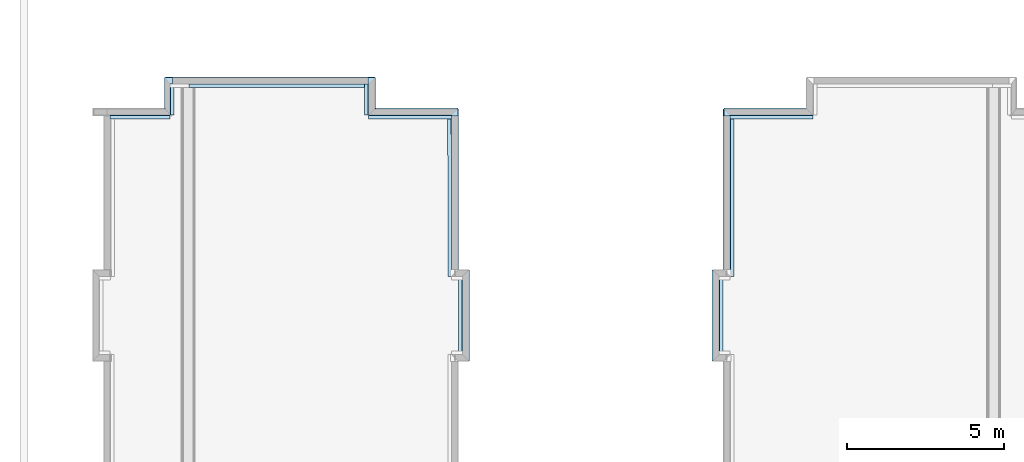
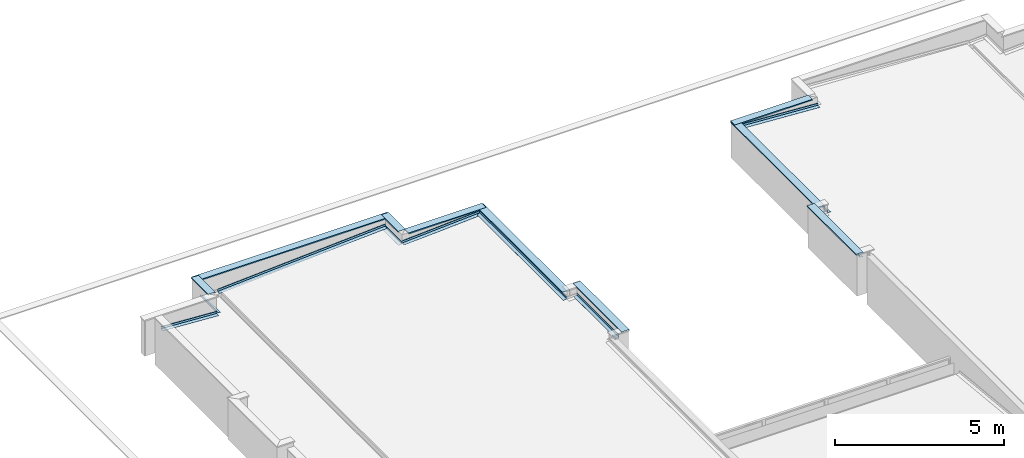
# One storey, part 13 of 25: 19 roofs.
"""IFC4 building model written with IfcOpenShell, lengths in metres."""

from ifc_helpers import new_model, entity, si_unit, converted_unit, derived_unit, direction, frame, origin_with_axes, place, context, subcontext, project, spatial, line, indexed_curve, outline, extrude, clip, halfspace, material, material_profile, profile_set, type_object, element, save


model = new_model("IFC4")

# Units and contexts
model_context = context("Model", 3, precision=1e-05, world=origin_with_axes(), true_north=direction((0.0, 1.0)))
body_context = subcontext(model_context, "Body", "Model", "MODEL_VIEW")
ifc_project = project(units=[si_unit("LENGTHUNIT", "METRE"), si_unit("AREAUNIT", "SQUARE_METRE"), si_unit("VOLUMEUNIT", "CUBIC_METRE"), converted_unit("PLANEANGLEUNIT", "DEGREE", entity("IfcPlaneAngleMeasure", 0.0174532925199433), si_unit("PLANEANGLEUNIT", "RADIAN"), dimensions=[0, 0, 0, 0, 0, 0, 0]), converted_unit("TIMEUNIT", "Year", entity("IfcTimeMeasure", 31557600.0), si_unit("TIMEUNIT", "SECOND"), dimensions=[0, 0, 1, 0, 0, 0, 0]), si_unit("MASSUNIT", "GRAM", prefix="KILO"), si_unit("THERMODYNAMICTEMPERATUREUNIT", "DEGREE_CELSIUS"), si_unit("LUMINOUSINTENSITYUNIT", "LUMEN"), si_unit("ENERGYUNIT", "JOULE", prefix="MEGA"), derived_unit("THERMALCONDUCTANCEUNIT", [(si_unit("POWERUNIT", "WATT"), 1), (si_unit("LENGTHUNIT", "METRE"), -1), (si_unit("THERMODYNAMICTEMPERATUREUNIT", "KELVIN"), -1)]), derived_unit("SPECIFICHEATCAPACITYUNIT", [(si_unit("ENERGYUNIT", "JOULE"), 1), (si_unit("MASSUNIT", "GRAM", prefix="KILO"), -1), (si_unit("THERMODYNAMICTEMPERATUREUNIT", "KELVIN"), -1)]), derived_unit("MASSDENSITYUNIT", [(si_unit("MASSUNIT", "GRAM", prefix="KILO"), 1), (si_unit("VOLUMEUNIT", "CUBIC_METRE"), -1)])], contexts=[model_context])

# Site, building, storey
site_placement = place(None, origin_with_axes())
site = spatial("IfcSite", under=ifc_project, at=site_placement, Name="PADRÃO", CompositionType="ELEMENT")
building_placement = place(site_placement, origin_with_axes())
building = spatial("IfcBuilding", under=site, at=building_placement, Name="CRECHE PRÉ-ESCOLA TIPO 2", CompositionType="ELEMENT")
storey_placement = place(building_placement, frame((0.0, 0.0, 3.26), z_axis=(0.0, 0.0, 1.0), x_axis=(1.0, 0.0, 0.0)))
storey = spatial("IfcBuildingStorey", under=building, at=storey_placement, Name="COBERTURA", CompositionType="ELEMENT", Elevation=3.26)

# Roofs
ifc_material_1 = material(Name="RUFO EM CHAPA DE AÇO GALVANIZADO")
ifc_material_profile_1 = material_profile(ifc_material_1, outline(indexed_curve([(-0.123242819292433, 0.0), (-0.123136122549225, -0.000994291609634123), (-0.01, 0.0111462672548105), (-0.01, 0.0811462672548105), (0.000794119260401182, 0.0919771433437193), (8.58116060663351e-05, 0.0926830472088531), (-0.011, 0.0815594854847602), (-0.011, 0.0120446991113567), (-0.123136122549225, 1.14495535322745e-05)], segments=[line(1, 2, 3, 4, 5, 6, 7, 8, 9, 1)])), Name="RUFO EM CHAPA DE AÇO GALVANIZADO")
ifc_profile_set_1 = profile_set([ifc_material_profile_1], Name="FNDE-Rufo")
roof_type_1 = type_object("IfcRoofType", Name="FNDE-Rufo 124 x 94", PredefinedType="NOTDEFINED")
roof_1_placement = place(storey_placement, frame((-14.6900427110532, 39.7500903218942, 1.01432991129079), z_axis=(0.0, 0.0, 1.0), x_axis=(1.39327901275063e-10, 1.0, 0.0)))
element("IfcRoof", 1, at=roof_1_placement, inside=storey, type_object=roof_type_1, material=ifc_profile_set_1, Name="V01", PredefinedType="NOTDEFINED", context=body_context, shape_type="Clipping", body=[
    clip(clip(extrude(outline(indexed_curve([(-0.123242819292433, 0.0), (-0.123136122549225, -0.000994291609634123), (-0.01, 0.0111462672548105), (-0.01, 0.0811462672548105), (0.000794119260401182, 0.0919771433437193), (8.58116060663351e-05, 0.0926830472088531), (-0.011, 0.0815594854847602), (-0.011, 0.0120446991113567), (-0.123136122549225, 1.14495535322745e-05)], segments=[line(1, 2, 3, 4, 5, 6, 7, 8, 9, 1)])), frame((0.0, 2.6605327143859, 0.163886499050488), z_axis=(0.0, -0.998108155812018, -0.0614825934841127), x_axis=(1.0, 0.0, 0.0)), (0.0, 0.0, 1.0), 2.67638096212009), halfspace(frame((0.0, 0.0, 0.0), z_axis=(0.0, 1.0, 0.0), x_axis=(0.0, 0.0, 1.0)), True)), halfspace(frame((0.0, 2.64974776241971, 0.0), z_axis=(0.0, -1.0, 0.0), x_axis=(0.0, 0.0, -1.0)), True)),
])
roof_2_placement = place(storey_placement, frame((-34.6248122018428, 40.7500006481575, 0.66259587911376), z_axis=(0.0, 0.0, 1.0), x_axis=(-1.23378948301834e-06, -0.999999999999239, 0.0)))
element("IfcRoof", 2, at=roof_2_placement, inside=storey, type_object=roof_type_1, material=ifc_profile_set_1, Name="V01", PredefinedType="NOTDEFINED", context=body_context, shape_type="Clipping", body=[
    clip(clip(extrude(outline(indexed_curve([(-0.123242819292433, 0.0), (-0.123136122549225, -0.000994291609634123), (-0.01, 0.0111462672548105), (-0.01, 0.0811462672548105), (0.000794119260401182, 0.0919771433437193), (8.58116060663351e-05, 0.0926830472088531), (-0.011, 0.0815594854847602), (-0.011, 0.0120446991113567), (-0.123136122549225, 1.14495535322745e-05)], segments=[line(1, 2, 3, 4, 5, 6, 7, 8, 9, 1)])), frame((0.0, 5.74533244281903, 0.353912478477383), z_axis=(0.0, 0.998108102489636, 0.0614834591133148), x_axis=(-1.0, 0.0, 0.0)), (0.0, 0.0, -1.0), 5.76702817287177), halfspace(frame((0.0, 0.0, 0.0), z_axis=(0.0, 1.0, 0.0), x_axis=(0.0, 0.0, 1.0)), True)), halfspace(frame((0.0, 5.73454733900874, 0.0), z_axis=(0.0, -1.0, 0.0), x_axis=(0.0, 0.0, -1.0)), True)),
])
roof_3_placement = place(storey_placement, frame((-28.8902637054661, 40.7499935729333, 0.966231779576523), z_axis=(0.0, 0.0, 1.0), x_axis=(-1.0, 0.0, 0.0)))
element("IfcRoof", 3, at=roof_3_placement, inside=storey, type_object=roof_type_1, material=ifc_profile_set_1, Name="V01", PredefinedType="NOTDEFINED", context=body_context, shape_type="SweptSolid", body=[
    extrude(outline(indexed_curve([(-0.123242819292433, 0.0), (-0.123136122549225, -0.000994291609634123), (-0.01, 0.0111462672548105), (-0.01, 0.0811462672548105), (0.000794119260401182, 0.0919771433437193), (8.58116060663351e-05, 0.0926830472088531), (-0.011, 0.0815594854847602), (-0.011, 0.0120446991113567), (-0.123136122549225, 1.14495535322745e-05)], segments=[line(1, 2, 3, 4, 5, 6, 7, 8, 9, 1)])), frame((0.0, 1.00005816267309, 0.0), z_axis=(0.0, 1.0, 0.0), x_axis=(-1.0, 0.0, 0.0)), (0.0, 0.0, -1.0), 1.00005816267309),
])
roof_4_placement = place(storey_placement, frame((-28.8902637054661, 39.7499354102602, 1.01314679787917), z_axis=(0.0, 0.0, 1.0), x_axis=(1.39327632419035e-10, -1.0, 0.0)))
element("IfcRoof", 4, at=roof_4_placement, inside=storey, type_object=roof_type_1, material=ifc_profile_set_1, Name="V01", PredefinedType="NOTDEFINED", context=body_context, shape_type="Clipping", body=[
    clip(clip(extrude(outline(indexed_curve([(-0.123242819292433, 0.0), (-0.123136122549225, -0.000994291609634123), (-0.01, 0.0111462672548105), (-0.01, 0.0811462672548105), (0.000794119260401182, 0.0919771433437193), (8.58116060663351e-05, 0.0926830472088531), (-0.011, 0.0815594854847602), (-0.011, 0.0120446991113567), (-0.123136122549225, 1.14495535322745e-05)], segments=[line(1, 2, 3, 4, 5, 6, 7, 8, 9, 1)])), frame((0.0, 2.66325498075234, 0.164271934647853), z_axis=(0.0, 0.998103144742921, 0.0615638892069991), x_axis=(-1.0, 0.0, 0.0)), (0.0, 0.0, -1.0), 2.67913612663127), halfspace(frame((0.0, 0.0, 0.0), z_axis=(0.0, 1.0, 0.0), x_axis=(0.0, 0.0, 1.0)), True)), halfspace(frame((0.0, 2.65245576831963, 0.0), z_axis=(0.0, -1.0, 0.0), x_axis=(0.0, 0.0, -1.0)), True)),
])
roof_5_placement = place(storey_placement, frame((-37.143318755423, 39.7500031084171, 0.800568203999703), z_axis=(0.0, 0.0, 1.0), x_axis=(0.0, -1.0, 0.0)))
element("IfcRoof", 5, at=roof_5_placement, inside=storey, type_object=roof_type_1, material=ifc_profile_set_1, Name="V01", PredefinedType="NOTDEFINED", context=body_context, shape_type="Clipping", body=[
    clip(clip(extrude(outline(indexed_curve([(-0.123242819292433, 0.0), (-0.123136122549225, -0.000994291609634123), (-0.01, 0.0111462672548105), (-0.01, 0.0811462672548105), (0.000794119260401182, 0.0919771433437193), (8.58116060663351e-05, 0.0926830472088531), (-0.011, 0.0815594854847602), (-0.011, 0.0120446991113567), (-0.123136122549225, 1.14495535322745e-05)], segments=[line(1, 2, 3, 4, 5, 6, 7, 8, 9, 1)])), frame((0.0, 1.92753274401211, -0.115651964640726), z_axis=(0.0, 0.998204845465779, -0.0598922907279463), x_axis=(-1.0, 0.0, 0.0)), (0.0, 0.0, -1.0), 1.94152406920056), halfspace(frame((0.0, 0.0, 0.0), z_axis=(0.0, 1.0, 0.0), x_axis=(0.0, 0.0, 1.0)), True)), halfspace(frame((0.0, 1.91702675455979, 0.0), z_axis=(0.0, -1.0, 0.0), x_axis=(0.0, 0.0, -1.0)), True)),
])
roof_6_placement = place(storey_placement, frame((-35.2262920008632, 40.7500027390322, 0.687994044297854), z_axis=(0.0, 0.0, 1.0), x_axis=(-1.0, 0.0, 0.0)))
element("IfcRoof", 6, at=roof_6_placement, inside=storey, type_object=roof_type_1, material=ifc_profile_set_1, Name="V01", PredefinedType="NOTDEFINED", context=body_context, shape_type="SweptSolid", body=[
    extrude(outline(indexed_curve([(-0.123242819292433, 0.0), (-0.123136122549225, -0.000994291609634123), (-0.01, 0.0111462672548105), (-0.01, 0.0811462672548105), (0.000794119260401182, 0.0919771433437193), (8.58116060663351e-05, 0.0926830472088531), (-0.011, 0.0815594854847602), (-0.011, 0.0120446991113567), (-0.123136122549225, 1.14495535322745e-05)], segments=[line(1, 2, 3, 4, 5, 6, 7, 8, 9, 1)])), frame((0.0, 0.99999963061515, 0.0), z_axis=(0.0, -1.0, 0.0), x_axis=(1.0, 0.0, 0.0)), (0.0, 0.0, 1.0), 0.99999963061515),
])
roof_7_placement = place(storey_placement, frame((-25.8877493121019, 32.1001889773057, 1.19564920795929), z_axis=(0.0, 0.0, 1.0), x_axis=(1.0, 0.0, 0.0)))
element("IfcRoof", 7, at=roof_7_placement, inside=storey, type_object=roof_type_1, material=ifc_profile_set_1, Name="V13", PredefinedType="NOTDEFINED", context=body_context, shape_type="SweptSolid", body=[
    extrude(outline(indexed_curve([(-0.123242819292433, 0.0), (-0.123136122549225, -0.000994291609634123), (-0.01, 0.0111462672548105), (-0.01, 0.0811462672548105), (0.000794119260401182, 0.0919771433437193), (8.58116060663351e-05, 0.0926830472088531), (-0.011, 0.0815594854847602), (-0.011, 0.0120446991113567), (-0.123136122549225, 1.14495535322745e-05)], segments=[line(1, 2, 3, 4, 5, 6, 7, 8, 9, 1)])), frame((0.0, 2.50172949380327, 0.0), z_axis=(0.0, -1.0, 0.0), x_axis=(1.0, 0.0, 0.0)), (0.0, 0.0, 1.0), 2.50172949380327),
])
roof_8_placement = place(storey_placement, frame((-17.3397904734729, 39.7500903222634, 1.17755602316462), z_axis=(0.0, 0.0, 1.0), x_axis=(-0.999999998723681, 5.05236402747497e-05, 0.0)))
element("IfcRoof", 8, at=roof_8_placement, inside=storey, type_object=roof_type_1, material=ifc_profile_set_1, Name="V03", PredefinedType="NOTDEFINED", context=body_context, shape_type="Clipping", body=[
    clip(clip(extrude(outline(indexed_curve([(-0.123242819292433, 0.0), (-0.123136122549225, -0.000994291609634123), (-0.01, 0.0111462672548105), (-0.01, 0.0811462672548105), (0.000794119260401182, 0.0919771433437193), (8.58116060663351e-05, 0.0926830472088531), (-0.011, 0.0815594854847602), (-0.011, 0.0120446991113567), (-0.123136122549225, 1.14495535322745e-05)], segments=[line(1, 2, 3, 4, 5, 6, 7, 8, 9, 1)])), frame((0.0, 5.15006674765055, -0.0042218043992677), z_axis=(0.0, -0.99999966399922, 0.000819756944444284), x_axis=(1.0, 0.0, 0.0)), (0.0, 0.0, 1.0), 5.15021227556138), halfspace(frame((0.0, 0.0, 0.0), z_axis=(0.0, 1.0, 0.0), x_axis=(0.0, 0.0, 1.0)), True)), halfspace(frame((0.0, 5.14992295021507, 0.0), z_axis=(0.0, -1.0, 0.0), x_axis=(0.0, 0.0, -1.0)), True)),
])
roof_9_placement = place(storey_placement, frame((-17.6900125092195, 34.6001673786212, 1.19432809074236), z_axis=(0.0, 0.0, 1.0), x_axis=(-1.0, 0.0, 0.0)))
element("IfcRoof", 9, at=roof_9_placement, inside=storey, type_object=roof_type_1, material=ifc_profile_set_1, Name="V05", PredefinedType="NOTDEFINED", context=body_context, shape_type="SweptSolid", body=[
    extrude(outline(indexed_curve([(-0.123242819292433, 0.0), (-0.123136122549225, -0.000994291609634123), (-0.01, 0.0111462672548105), (-0.01, 0.0811462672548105), (0.000794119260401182, 0.0919771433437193), (8.58116060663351e-05, 0.0926830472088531), (-0.011, 0.0815594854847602), (-0.011, 0.0120446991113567), (-0.123136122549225, 1.14495535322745e-05)], segments=[line(1, 2, 3, 4, 5, 6, 7, 8, 9, 1)])), frame((0.0, 2.49997905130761, 0.0), z_axis=(0.0, -1.0, 0.0), x_axis=(1.0, 0.0, 0.0)), (0.0, 0.0, 1.0), 2.49997905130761),
])
roof_10_placement = place(storey_placement, frame((-26.2344790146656, 34.6001890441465, 1.17484542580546), z_axis=(0.0, 0.0, 1.0), x_axis=(0.999999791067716, 0.000646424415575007, 0.0)))
element("IfcRoof", 10, at=roof_10_placement, inside=storey, type_object=roof_type_1, material=ifc_profile_set_1, Name="V15", PredefinedType="NOTDEFINED", context=body_context, shape_type="Clipping", body=[
    clip(clip(extrude(outline(indexed_curve([(-0.123242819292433, 0.0), (-0.123136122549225, -0.000994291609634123), (-0.01, 0.0111462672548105), (-0.01, 0.0811462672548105), (0.000794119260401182, 0.0919771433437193), (8.58116060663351e-05, 0.0926830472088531), (-0.011, 0.0815594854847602), (-0.011, 0.0120446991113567), (-0.123136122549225, 1.14495535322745e-05)], segments=[line(1, 2, 3, 4, 5, 6, 7, 8, 9, 1)])), frame((0.0, 5.14981240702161, 0.00190722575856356), z_axis=(0.0, -0.999999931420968, -0.000370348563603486), x_axis=(1.0, 0.0, 0.0)), (0.0, 0.0, 1.0), 5.14987772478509), halfspace(frame((0.0, 0.0, 0.0), z_axis=(0.0, 1.0, 0.0), x_axis=(0.0, 0.0, 1.0)), True)), halfspace(frame((0.0, 5.14974744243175, 0.0), z_axis=(0.0, -1.0, 0.0), x_axis=(0.0, 0.0, -1.0)), True)),
])
ifc_material_2 = material(Name="PINGADEIRA EM CHAPA DE AÇO GALVANIZADO")
ifc_material_profile_2 = material_profile(ifc_material_2, outline(indexed_curve([(0.00496259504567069, -0.0184313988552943), (0.0250000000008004, -0.03), (0.0250000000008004, 0.01), (-0.225020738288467, 0.01), (-0.22503740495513, -0.03), (-0.205, -0.0184313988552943), (-0.2055, -0.0175653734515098), (-0.224036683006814, -0.0282675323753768), (-0.224021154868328, 0.009), (0.0240000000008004, 0.009), (0.0240000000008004, -0.0282679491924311), (0.00546259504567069, -0.0175653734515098)], segments=[line(1, 2, 3, 4, 5, 6, 7, 8, 9, 10, 11, 12, 1)])), Name="PINGADEIRA EM CHAPA DE AÇO GALVANIZADO")
ifc_profile_set_2 = profile_set([ifc_material_profile_2], Name="FNDE-Pingadeira em chapa de aço galvanizado")
roof_type_2 = type_object("IfcRoofType", Name="FNDE-Pingadeira em chapa de aço galvanizado 250 x 40", PredefinedType="NOTDEFINED")
roof_11_placement = place(storey_placement, frame((-14.8905644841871, 39.950090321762, 1.31), z_axis=(0.0, 0.0, 1.0), x_axis=(4.04236717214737e-09, 1.0, 0.0)))
element("IfcRoof", 11, at=roof_11_placement, inside=storey, type_object=roof_type_2, material=ifc_profile_set_2, Name="V01", PredefinedType="NOTDEFINED", context=body_context, shape_type="SweptSolid", body=[
    extrude(outline(indexed_curve([(0.00496259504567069, -0.0184313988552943), (0.0250000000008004, -0.03), (0.0250000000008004, 0.01), (-0.225020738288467, 0.01), (-0.22503740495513, -0.03), (-0.205, -0.0184313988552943), (-0.2055, -0.0175653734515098), (-0.224036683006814, -0.0282675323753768), (-0.224021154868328, 0.009), (0.0240000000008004, 0.009), (0.0240000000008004, -0.0282679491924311), (0.00546259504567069, -0.0175653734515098)], segments=[line(1, 2, 3, 4, 5, 6, 7, 8, 9, 10, 11, 12, 1)])), frame((0.0, 2.64948604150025, 0.0), z_axis=(0.0, -1.0, 0.0), x_axis=(1.0, 0.0, 0.0)), (0.0, 0.0, 1.0), 2.64948604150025),
])
roof_12_placement = place(storey_placement, frame((-26.0400963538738, 39.9468322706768, 1.31), z_axis=(0.0, 0.0, 1.0), x_axis=(-0.000362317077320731, 0.999999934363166, 0.0)))
element("IfcRoof", 12, at=roof_12_placement, inside=storey, type_object=roof_type_2, material=ifc_profile_set_2, Name="V01", PredefinedType="NOTDEFINED", context=body_context, shape_type="SweptSolid", body=[
    extrude(outline(indexed_curve([(0.00496259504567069, -0.0184313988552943), (0.0250000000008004, -0.03), (0.0250000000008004, 0.01), (-0.225020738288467, 0.01), (-0.22503740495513, -0.03), (-0.205, -0.0184313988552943), (-0.2055, -0.0175653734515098), (-0.224036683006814, -0.0282675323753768), (-0.224021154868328, 0.009), (0.0240000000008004, 0.009), (0.0240000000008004, -0.0282679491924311), (0.00546259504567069, -0.0175653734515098)], segments=[line(1, 2, 3, 4, 5, 6, 7, 8, 9, 10, 11, 12, 1)])), frame((0.0, 2.64997360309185, 0.0), z_axis=(0.0, -1.0, 0.0), x_axis=(1.0, 0.0, 0.0)), (0.0, 0.0, 1.0), 2.64997360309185),
])
roof_13_placement = place(storey_placement, frame((-28.6900697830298, 39.9458721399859, 1.31), z_axis=(0.0, 0.0, 1.0), x_axis=(0.99999995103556, 0.00031293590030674, 0.0)))
element("IfcRoof", 13, at=roof_13_placement, inside=storey, type_object=roof_type_2, material=ifc_profile_set_2, Name="V01", PredefinedType="NOTDEFINED", context=body_context, shape_type="SweptSolid", body=[
    extrude(outline(indexed_curve([(0.00496259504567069, -0.0184313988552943), (0.0250000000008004, -0.03), (0.0250000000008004, 0.01), (-0.225020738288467, 0.01), (-0.22503740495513, -0.03), (-0.205, -0.0184313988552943), (-0.2055, -0.0175653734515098), (-0.224036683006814, -0.0282675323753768), (-0.224021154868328, 0.009), (0.0240000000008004, 0.009), (0.0240000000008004, -0.0282679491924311), (0.00546259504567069, -0.0175653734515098)], segments=[line(1, 2, 3, 4, 5, 6, 7, 8, 9, 10, 11, 12, 1)])), frame((0.0, 1.00412881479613, 0.0), z_axis=(0.0, -1.0, 0.0), x_axis=(1.0, 0.0, 0.0)), (0.0, 0.0, 1.0), 1.00412881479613),
])
roof_14_placement = place(storey_placement, frame((-35.3800961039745, 40.9479074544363, 1.31), z_axis=(0.0, 0.0, 1.0), x_axis=(-1.0, 0.0, 0.0)))
element("IfcRoof", 14, at=roof_14_placement, inside=storey, type_object=roof_type_2, material=ifc_profile_set_2, Name="V01", PredefinedType="NOTDEFINED", context=body_context, shape_type="SweptSolid", body=[
    extrude(outline(indexed_curve([(0.00496259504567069, -0.0184313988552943), (0.0250000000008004, -0.03), (0.0250000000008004, 0.01), (-0.225020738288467, 0.01), (-0.22503740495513, -0.03), (-0.205, -0.0184313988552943), (-0.2055, -0.0175653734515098), (-0.224036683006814, -0.0282675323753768), (-0.224021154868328, 0.009), (0.0240000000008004, 0.009), (0.0240000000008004, -0.0282679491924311), (0.00546259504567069, -0.0175653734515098)], segments=[line(1, 2, 3, 4, 5, 6, 7, 8, 9, 10, 11, 12, 1)])), frame((0.0, 0.997905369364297, 0.0), z_axis=(0.0, -1.0, 0.0), x_axis=(1.0, 0.0, 0.0)), (0.0, 0.0, 1.0), 0.997905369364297),
])
roof_15_placement = place(storey_placement, frame((-28.6903840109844, 40.9500009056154, 1.31), z_axis=(0.0, 0.0, 1.0), x_axis=(-0.000312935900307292, 0.99999995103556, 0.0)))
element("IfcRoof", 15, at=roof_15_placement, inside=storey, type_object=roof_type_2, material=ifc_profile_set_2, Name="V01", PredefinedType="NOTDEFINED", context=body_context, shape_type="SweptSolid", body=[
    extrude(outline(indexed_curve([(0.00496259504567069, -0.0184313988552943), (0.0250000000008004, -0.03), (0.0250000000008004, 0.01), (-0.225020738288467, 0.01), (-0.22503740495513, -0.03), (-0.205, -0.0184313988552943), (-0.2055, -0.0175653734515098), (-0.224036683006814, -0.0282675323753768), (-0.224021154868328, 0.009), (0.0240000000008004, 0.009), (0.0240000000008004, -0.0282679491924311), (0.00546259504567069, -0.0175653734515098)], segments=[line(1, 2, 3, 4, 5, 6, 7, 8, 9, 10, 11, 12, 1)])), frame((0.0, 6.68971242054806, 0.0), z_axis=(0.0, -1.0, 0.0), x_axis=(1.0, 0.0, 0.0)), (0.0, 0.0, 1.0), 6.68971242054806),
])
roof_16_placement = place(storey_placement, frame((-17.8900123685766, 34.8000019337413, 1.51), z_axis=(0.0, 0.0, 1.0), x_axis=(-1.0, 0.0, 0.0)))
element("IfcRoof", 16, at=roof_16_placement, inside=storey, type_object=roof_type_2, material=ifc_profile_set_2, Name="V01", PredefinedType="NOTDEFINED", context=body_context, shape_type="SweptSolid", body=[
    extrude(outline(indexed_curve([(0.00496259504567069, -0.0184313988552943), (0.0250000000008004, -0.03), (0.0250000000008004, 0.01), (-0.225020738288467, 0.01), (-0.22503740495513, -0.03), (-0.205, -0.0184313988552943), (-0.2055, -0.0175653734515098), (-0.224036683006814, -0.0282675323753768), (-0.224021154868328, 0.009), (0.0240000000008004, 0.009), (0.0240000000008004, -0.0282679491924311), (0.00546259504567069, -0.0175653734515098)], segments=[line(1, 2, 3, 4, 5, 6, 7, 8, 9, 10, 11, 12, 1)])), frame((0.0, 2.89999999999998, 0.0), z_axis=(0.0, -1.0, 0.0), x_axis=(1.0, 0.0, 0.0)), (0.0, 0.0, 1.0), 2.89999999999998),
])
roof_17_placement = place(storey_placement, frame((-25.6895277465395, 34.8000019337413, 1.51), z_axis=(0.0, 0.0, 1.0), x_axis=(-1.0, 0.0, 0.0)))
element("IfcRoof", 17, at=roof_17_placement, inside=storey, type_object=roof_type_2, material=ifc_profile_set_2, Name="V01", PredefinedType="NOTDEFINED", context=body_context, shape_type="SweptSolid", body=[
    extrude(outline(indexed_curve([(0.00496259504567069, -0.0184313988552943), (0.0250000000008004, -0.03), (0.0250000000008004, 0.01), (-0.225020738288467, 0.01), (-0.22503740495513, -0.03), (-0.205, -0.0184313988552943), (-0.2055, -0.0175653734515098), (-0.224036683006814, -0.0282675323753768), (-0.224021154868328, 0.009), (0.0240000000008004, 0.009), (0.0240000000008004, -0.0282679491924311), (0.00546259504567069, -0.0175653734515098)], segments=[line(1, 2, 3, 4, 5, 6, 7, 8, 9, 10, 11, 12, 1)])), frame((0.0, 2.89999999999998, 0.0), z_axis=(0.0, 1.0, 0.0), x_axis=(-1.0, 0.0, 0.0)), (0.0, 0.0, -1.0), 2.89999999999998),
])
roof_18_placement = place(storey_placement, frame((-17.5400505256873, 39.9500903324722, 1.31), z_axis=(0.0, 0.0, 1.0), x_axis=(-1.0, 0.0, 0.0)))
element("IfcRoof", 18, at=roof_18_placement, inside=storey, type_object=roof_type_2, material=ifc_profile_set_2, Name="V01", PredefinedType="NOTDEFINED", context=body_context, shape_type="SweptSolid", body=[
    extrude(outline(indexed_curve([(0.00496259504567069, -0.0184313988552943), (0.0250000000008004, -0.03), (0.0250000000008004, 0.01), (-0.225020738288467, 0.01), (-0.22503740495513, -0.03), (-0.205, -0.0184313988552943), (-0.2055, -0.0175653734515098), (-0.224036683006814, -0.0282675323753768), (-0.224021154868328, 0.009), (0.0240000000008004, 0.009), (0.0240000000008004, -0.0282679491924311), (0.00546259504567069, -0.0175653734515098)], segments=[line(1, 2, 3, 4, 5, 6, 7, 8, 9, 10, 11, 12, 1)])), frame((0.0, 5.14991395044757, 0.0), z_axis=(0.0, -1.0, 0.0), x_axis=(1.0, 0.0, 0.0)), (0.0, 0.0, 1.0), 5.14991395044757),
])
roof_19_placement = place(storey_placement, frame((-26.0400963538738, 34.8001770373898, 1.31), z_axis=(0.0, 0.0, 1.0), x_axis=(1.0, 0.0, 0.0)))
element("IfcRoof", 19, at=roof_19_placement, inside=storey, type_object=roof_type_2, material=ifc_profile_set_2, Name="V01", PredefinedType="NOTDEFINED", context=body_context, shape_type="SweptSolid", body=[
    extrude(outline(indexed_curve([(0.00496259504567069, -0.0184313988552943), (0.0250000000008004, -0.03), (0.0250000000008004, 0.01), (-0.225020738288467, 0.01), (-0.22503740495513, -0.03), (-0.205, -0.0184313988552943), (-0.2055, -0.0175653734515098), (-0.224036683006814, -0.0282675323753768), (-0.224021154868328, 0.009), (0.0240000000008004, 0.009), (0.0240000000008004, -0.0282679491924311), (0.00546259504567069, -0.0175653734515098)], segments=[line(1, 2, 3, 4, 5, 6, 7, 8, 9, 10, 11, 12, 1)])), frame((0.0, 5.14665523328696, 0.0), z_axis=(0.0, -1.0, 0.0), x_axis=(1.0, 0.0, 0.0)), (0.0, 0.0, 1.0), 5.14665523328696),
])

save(model, "model.ifc")
